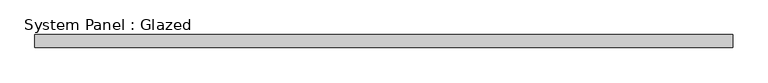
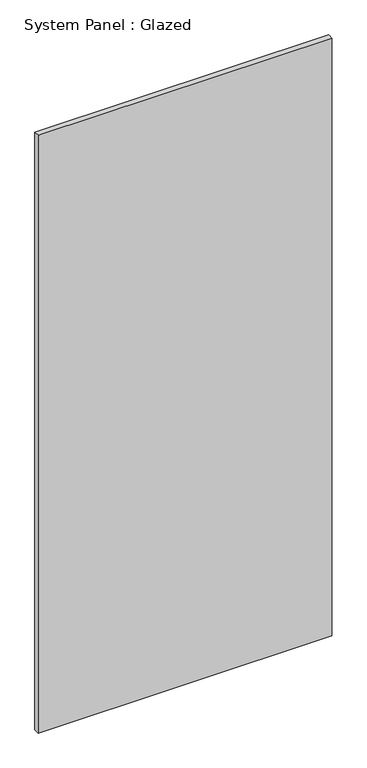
"""IFC4 building model written with IfcOpenShell, lengths in millimetres: plate geometry, System Panel : Glazed."""

import ifcopenshell
import ifcopenshell.guid

model = None  # the IFC model being written
_history = None  # IfcOwnerHistory: only IFC2X3 demands one
_inside = {}  # id of a spatial element -> (the spatial element, [elements in it])
_under = {}  # id of a project, library or spatial element -> (it, [spatial elements below it])
_declared = {}  # id of a project -> (the project, [libraries it declares])
_typed = {}  # id of a type object -> (the type object, [elements of that type])
_made_of = {}  # id of a material, layer set ... -> (it, [elements and type objects made of it])


def new_model(schema):
    """Start an empty IFC model of exactly this schema.

    Asked for "IFC4X3", IfcOpenShell would pick the latest addendum, in which some entities
    have other attributes; the version numbers below select the first issue.
    IFC2X3 requires an IfcOwnerHistory on every rooted entity: one is made here for all.
    """
    global model, _history
    if schema == "IFC4X3":
        model = ifcopenshell.file(schema_version=(4, 3, 0, 0))
    else:
        model = ifcopenshell.file(schema=schema)
    _inside.clear()
    _under.clear()
    _declared.clear()
    _typed.clear()
    _made_of.clear()
    _history = None
    if model.schema == "IFC2X3":
        org = make("IfcOrganization", Name="unknown")
        user = make(
            "IfcPersonAndOrganization",
            ThePerson=make("IfcPerson", FamilyName="unknown"),
            TheOrganization=org,
        )
        app = make(
            "IfcApplication",
            ApplicationDeveloper=org,
            Version="unknown",
            ApplicationFullName="unknown",
            ApplicationIdentifier="unknown",
        )
        _history = make(
            "IfcOwnerHistory",
            OwningUser=user,
            OwningApplication=app,
            ChangeAction="ADDED",
            CreationDate=0,
        )
    return model


def make(cls, **values):
    """One entity of the class cls with the attributes given. An attribute that is None is left unset."""
    return model.create_entity(
        cls, **{name: value for name, value in values.items() if value is not None}
    )


def rooted(cls, **values):
    """An entity with a GlobalId (a new one), such as an element, a storey or a relation."""
    return make(cls, GlobalId=ifcopenshell.guid.new(), OwnerHistory=_history, **values)


def si_unit(unit_type, name, prefix=None):
    """IfcSIUnit, for example si_unit("LENGTHUNIT", "METRE", prefix="MILLI")."""
    return make("IfcSIUnit", UnitType=unit_type, Prefix=prefix, Name=name)


def assignment(units):
    """IfcUnitAssignment: the units of a project."""
    return None if units is None else make("IfcUnitAssignment", Units=units)


def point(xyz):
    """IfcCartesianPoint."""
    return None if xyz is None else make("IfcCartesianPoint", Coordinates=xyz)


def direction(xyz):
    """IfcDirection."""
    return None if xyz is None else make("IfcDirection", DirectionRatios=xyz)


def frame(location, z_axis=None, x_axis=None):
    """IfcAxis2Placement3D, a coordinate frame: its origin and axes. An axis left out is left unset."""
    return make(
        "IfcAxis2Placement3D",
        Location=point(location),
        Axis=direction(z_axis),
        RefDirection=direction(x_axis),
    )


def origin():
    """The frame at (0, 0, 0) with its axes left unset."""
    return frame((0.0, 0.0, 0.0))


def origin_with_axes():
    """The frame at (0, 0, 0) with the z axis (0, 0, 1) and the x axis (1, 0, 0) written out."""
    return frame((0.0, 0.0, 0.0), z_axis=(0.0, 0.0, 1.0), x_axis=(1.0, 0.0, 0.0))


def place(relative_to, where):
    """IfcLocalPlacement: puts the frame where relative to a parent placement (None: the world)."""
    return make(
        "IfcLocalPlacement", PlacementRelTo=relative_to, RelativePlacement=where
    )


def context(
    kind, dimensions, precision=None, world=None, true_north=None, identifier=None
):
    """IfcGeometricRepresentationContext, for example the 3D "Model" context."""
    return make(
        "IfcGeometricRepresentationContext",
        ContextIdentifier=identifier,
        ContextType=kind,
        CoordinateSpaceDimension=dimensions,
        Precision=precision,
        WorldCoordinateSystem=world,
        TrueNorth=true_north,
    )


def project(units=None, contexts=None):
    """IfcProject with its units and contexts."""
    return rooted(
        "IfcProject",
        Name="project",
        RepresentationContexts=contexts,
        UnitsInContext=assignment(units),
    )


def spatial(cls, under=None, at=None, **own):
    """A site, building, storey or space (cls), placed at a placement, below another one or the project."""
    s = rooted(cls, ObjectPlacement=at, **own)
    if under is not None:
        _under.setdefault(under.id(), (under, []))[1].append(s)
    return s


def polyline(points):
    """IfcPolyline through the points."""
    return make("IfcPolyline", Points=[point(p) for p in points])


def outline(outer, holes=None, kind="AREA"):
    """IfcArbitraryClosedProfileDef: a profile drawn as a closed curve; with holes, ...WithVoids."""
    if holes is None:
        return make("IfcArbitraryClosedProfileDef", ProfileType=kind, OuterCurve=outer)
    return make(
        "IfcArbitraryProfileDefWithVoids",
        ProfileType=kind,
        OuterCurve=outer,
        InnerCurves=holes,
    )


def extrude(swept, where, along, depth):
    """IfcExtrudedAreaSolid: the profile swept, set in the frame where, extruded along a direction by depth."""
    return make(
        "IfcExtrudedAreaSolid",
        SweptArea=swept,
        Position=where,
        ExtrudedDirection=direction(along),
        Depth=depth,
    )


def shape(context_of_items, identifier, shape_type, items):
    """IfcShapeRepresentation: the items that make up one representation, for example the "Body"."""
    return make(
        "IfcShapeRepresentation",
        ContextOfItems=context_of_items,
        RepresentationIdentifier=identifier,
        RepresentationType=shape_type,
        Items=items,
    )


def source(mapping_origin, context_of_items, identifier, shape_type, items):
    """IfcRepresentationMap: a shape defined once, which mapped items show again and again."""
    return make(
        "IfcRepresentationMap",
        MappingOrigin=mapping_origin,
        MappedRepresentation=shape(context_of_items, identifier, shape_type, items),
    )


def transform(
    local_origin,
    x_axis=None,
    y_axis=None,
    z_axis=None,
    scale=None,
    scale2=None,
    scale3=None,
    uniform=True,
):
    """IfcCartesianTransformationOperator3D, or its non-uniform kind. x_axis, y_axis, z_axis: its Axis1, 2, 3."""
    if uniform:
        return make(
            "IfcCartesianTransformationOperator3D",
            Axis1=direction(x_axis),
            Axis2=direction(y_axis),
            LocalOrigin=point(local_origin),
            Scale=scale,
            Axis3=direction(z_axis),
        )
    return make(
        "IfcCartesianTransformationOperator3DnonUniform",
        Axis1=direction(x_axis),
        Axis2=direction(y_axis),
        LocalOrigin=point(local_origin),
        Scale=scale,
        Axis3=direction(z_axis),
        Scale2=scale2,
        Scale3=scale3,
    )


def mapped(mapping_source, mapping_target):
    """IfcMappedItem: shows the shape of a source again, moved by a transform."""
    return make(
        "IfcMappedItem", MappingSource=mapping_source, MappingTarget=mapping_target
    )


def made_of(thing, what):
    """Note that an element or type object is made of a material, layer set ...; save() writes the relation."""
    if what is not None:
        _made_of.setdefault(what.id(), (what, []))[1].append(thing)
    return thing


def element(
    cls,
    number,
    at=None,
    inside=None,
    cuts=None,
    type_object=None,
    material=None,
    context=None,
    identifier="Body",
    shape_type=None,
    held_by="IfcProductDefinitionShape",
    body=None,
    shapes=None,
    **own,
):
    """One element of the class cls, such as IfcWall. Its Tag is "e" and its number.

    at: its placement. inside: the storey or other place that contains it. cuts: it is an
    opening in that element (IfcRelVoidsElement). A single representation is given by context,
    identifier, shape_type and body (its items); several are given by shapes. held_by: the class
    of the entity that holds the representations. save() writes the other relations.
    """
    e = rooted(cls, Tag="e%d" % number, ObjectPlacement=at, **own)
    if body is not None:
        shapes = [shape(context, identifier, shape_type, body)]
    if shapes is not None:
        e.Representation = make(held_by, Representations=shapes)
    if inside is not None:
        _inside.setdefault(inside.id(), (inside, []))[1].append(e)
    if cuts is not None:
        rooted(
            "IfcRelVoidsElement", RelatingBuildingElement=cuts, RelatedOpeningElement=e
        )
    if type_object is not None:
        _typed.setdefault(type_object.id(), (type_object, []))[1].append(e)
    return made_of(e, material)


def aggregate(whole, parts):
    """IfcRelAggregates: a whole, such as a stair, and the parts it consists of."""
    return rooted("IfcRelAggregates", RelatingObject=whole, RelatedObjects=parts)


def save(model, path):
    """Write the relations noted so far, then the file.

    IfcRelAggregates (storeys below a building ...), IfcRelContainedInSpatialStructure (elements
    in a storey), IfcRelDefinesByType, IfcRelAssociatesMaterial and IfcRelDeclares: one each for
    every whole, place, type object, material and project.
    """
    for whole, parts in _under.values():
        aggregate(whole, parts)
    for where, things in _inside.values():
        rooted(
            "IfcRelContainedInSpatialStructure",
            RelatedElements=things,
            RelatingStructure=where,
        )
    for kind, things in _typed.values():
        rooted("IfcRelDefinesByType", RelatedObjects=things, RelatingType=kind)
    for what, things in _made_of.values():
        rooted("IfcRelAssociatesMaterial", RelatedObjects=things, RelatingMaterial=what)
    for by, libraries in _declared.values():
        rooted("IfcRelDeclares", RelatingContext=by, RelatedDefinitions=libraries)
    model.write(path)


def system_panel_glazed_88c3ee34(model_context):
    return source(origin(), model_context, "Body", "SweptSolid", [
        extrude(outline(polyline([(685.7999999, -44.45), (-685.7999999, -44.45), (-685.7999999, -19.05), (685.7999999, -19.05), (685.7999999, -44.45)])), origin_with_axes(), (0.0, 0.0, 1.0), 2952.75),
    ])


if __name__ == "__main__":
    model = new_model("IFC4")
    model_context = context("Model", 3, world=origin())
    ifc_project = project(units=[si_unit("LENGTHUNIT", "METRE", prefix="MILLI")], contexts=[model_context])
    site = spatial("IfcSite", under=ifc_project)
    building = spatial("IfcBuilding", under=site)
    placement = place(None, origin())
    system_panel_glazed_shape = system_panel_glazed_88c3ee34(model_context)
    element("IfcPlate", 1, ObjectType="System Panel : Glazed", at=placement, inside=building, context=model_context, shape_type="MappedRepresentation", body=[
        mapped(system_panel_glazed_shape, transform((0.0, 0.0, 0.0), x_axis=(1.0, 0.0, 0.0), y_axis=(0.0, 1.0, 0.0), z_axis=(0.0, 0.0, 1.0))),
    ])
    save(model, "model.ifc")
